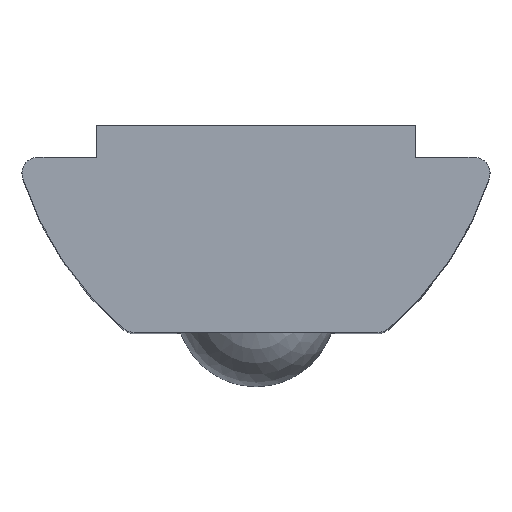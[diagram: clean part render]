
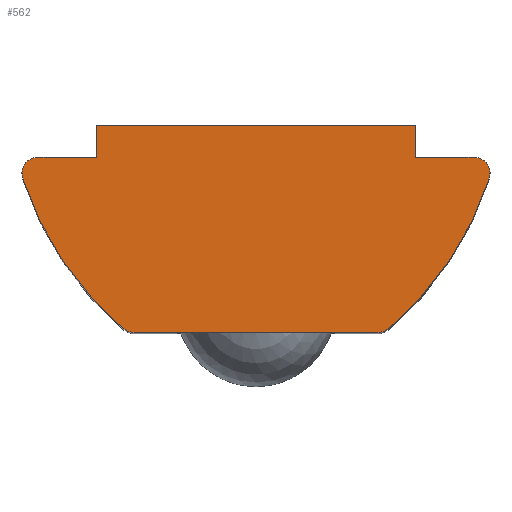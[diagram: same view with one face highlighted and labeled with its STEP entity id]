
A CAD part, top view. The second image highlights one B-rep face of the part: STEP entity #562.
In plain terms, the highlighted planar face has unit normal (0, 0, 1).
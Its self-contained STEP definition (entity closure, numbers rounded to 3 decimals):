
#49=CARTESIAN_POINT('',(4.142,0.117,22.0));
#50=VERTEX_POINT('',#49);
#51=CARTESIAN_POINT('',(3.821,0.0,22.0));
#52=VERTEX_POINT('',#51);
#53=CARTESIAN_POINT('',(3.821,0.5,22.0));
#54=DIRECTION('',(0.0,0.0,-1.0));
#55=DIRECTION('',(0.342,-0.94,0.0));
#56=AXIS2_PLACEMENT_3D('',#53,#54,#55);
#57=CIRCLE('',#56,0.5);
#58=EDGE_CURVE('',#50,#52,#57,.T.);
#101=CARTESIAN_POINT('',(7.315,4.848,22.0));
#102=VERTEX_POINT('',#101);
#109=CARTESIAN_POINT('',(-2.444,7.964,22.0));
#110=DIRECTION('',(0.0,0.0,-1.));
#111=DIRECTION('',(0.629,-0.777,0.0));
#112=AXIS2_PLACEMENT_3D('',#109,#110,#111);
#113=CIRCLE('',#112,10.245);
#114=EDGE_CURVE('',#102,#50,#113,.T.);
#216=CARTESIAN_POINT('',(-3.821,0.0,22.0));
#217=VERTEX_POINT('',#216);
#218=CARTESIAN_POINT('',(-4.142,0.117,22.0));
#219=VERTEX_POINT('',#218);
#220=CARTESIAN_POINT('',(-3.821,0.5,22.0));
#221=DIRECTION('',(0.0,0.0,-1.));
#222=DIRECTION('',(-0.342,-0.94,0.0));
#223=AXIS2_PLACEMENT_3D('',#220,#221,#222);
#224=CIRCLE('',#223,0.5);
#225=EDGE_CURVE('',#217,#219,#224,.T.);
#249=CARTESIAN_POINT('',(-7.315,4.848,22.0));
#250=VERTEX_POINT('',#249);
#251=CARTESIAN_POINT('',(2.444,7.964,22.0));
#252=DIRECTION('',(0.0,0.0,-1.));
#253=DIRECTION('',(-0.971,-0.241,0.0));
#254=AXIS2_PLACEMENT_3D('',#251,#252,#253);
#255=CIRCLE('',#254,10.245);
#256=EDGE_CURVE('',#219,#250,#255,.T.);
#273=CARTESIAN_POINT('',(-6.839,5.5,22.0));
#274=VERTEX_POINT('',#273);
#275=CARTESIAN_POINT('',(-6.839,5.0,22.0));
#276=DIRECTION('',(0.0,0.0,-1.));
#277=DIRECTION('',(-0.808,0.59,0.0));
#278=AXIS2_PLACEMENT_3D('',#275,#276,#277);
#279=CIRCLE('',#278,0.5);
#280=EDGE_CURVE('',#250,#274,#279,.T.);
#298=CARTESIAN_POINT('',(6.839,5.5,22.0));
#299=VERTEX_POINT('',#298);
#300=CARTESIAN_POINT('',(6.839,5.0,22.0));
#301=DIRECTION('',(0.0,0.0,-1.0));
#302=DIRECTION('',(0.808,0.59,0.0));
#303=AXIS2_PLACEMENT_3D('',#300,#301,#302);
#304=CIRCLE('',#303,0.5);
#305=EDGE_CURVE('',#299,#102,#304,.T.);
#409=CARTESIAN_POINT('',(-5.0,6.5,22.0));
#410=VERTEX_POINT('',#409);
#411=CARTESIAN_POINT('',(5.0,6.5,22.0));
#412=VERTEX_POINT('',#411);
#413=CARTESIAN_POINT('',(-5.0,6.5,22.0));
#414=DIRECTION('',(1.0,0.0,0.0));
#415=VECTOR('',#414,10.0);
#416=LINE('',#413,#415);
#417=EDGE_CURVE('',#410,#412,#416,.T.);
#445=CARTESIAN_POINT('',(5.,5.5,22.0));
#446=VERTEX_POINT('',#445);
#453=CARTESIAN_POINT('',(5.,5.5,22.0));
#454=DIRECTION('',(1.0,0.0,0.0));
#455=VECTOR('',#454,1.839);
#456=LINE('',#453,#455);
#457=EDGE_CURVE('',#446,#299,#456,.T.);
#468=CARTESIAN_POINT('',(-5.,5.5,22.0));
#469=VERTEX_POINT('',#468);
#470=CARTESIAN_POINT('',(-6.839,5.5,22.0));
#471=DIRECTION('',(1.0,0.0,0.0));
#472=VECTOR('',#471,1.839);
#473=LINE('',#470,#472);
#474=EDGE_CURVE('',#274,#469,#473,.T.);
#492=CARTESIAN_POINT('',(3.821,0.0,22.0));
#493=DIRECTION('',(-1.0,0.0,0.0));
#494=VECTOR('',#493,7.641);
#495=LINE('',#492,#494);
#496=EDGE_CURVE('',#52,#217,#495,.T.);
#514=CARTESIAN_POINT('',(-5.,5.5,22.0));
#515=DIRECTION('',(0.0,1.0,0.0));
#516=VECTOR('',#515,1.);
#517=LINE('',#514,#516);
#518=EDGE_CURVE('',#469,#410,#517,.T.);
#531=CARTESIAN_POINT('',(5.0,6.5,22.0));
#532=DIRECTION('',(0.0,-1.0,0.0));
#533=VECTOR('',#532,1.);
#534=LINE('',#531,#533);
#535=EDGE_CURVE('',#412,#446,#534,.T.);
#543=CARTESIAN_POINT('',(0.,6.0,22.0));
#544=DIRECTION('',(0.0,0.0,1.0));
#545=DIRECTION('',(1.0,0.0,0.0));
#546=AXIS2_PLACEMENT_3D('',#543,#544,#545);
#547=PLANE('',#546);
#548=ORIENTED_EDGE('',*,*,#58,.F.);
#549=ORIENTED_EDGE('',*,*,#114,.F.);
#550=ORIENTED_EDGE('',*,*,#305,.F.);
#551=ORIENTED_EDGE('',*,*,#457,.F.);
#552=ORIENTED_EDGE('',*,*,#535,.F.);
#553=ORIENTED_EDGE('',*,*,#417,.F.);
#554=ORIENTED_EDGE('',*,*,#518,.F.);
#555=ORIENTED_EDGE('',*,*,#474,.F.);
#556=ORIENTED_EDGE('',*,*,#280,.F.);
#557=ORIENTED_EDGE('',*,*,#256,.F.);
#558=ORIENTED_EDGE('',*,*,#225,.F.);
#559=ORIENTED_EDGE('',*,*,#496,.F.);
#560=EDGE_LOOP('',(#548,#549,#550,#551,#552,#553,#554,#555,#556,#557,#558,#559));
#561=FACE_OUTER_BOUND('',#560,.T.);
#562=ADVANCED_FACE('',(#561),#547,.T.);
